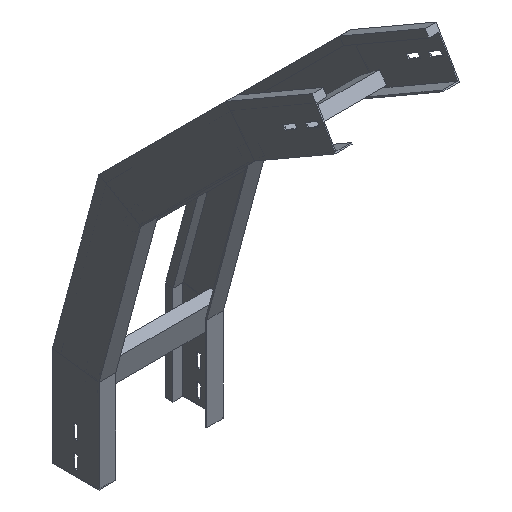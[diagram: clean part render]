
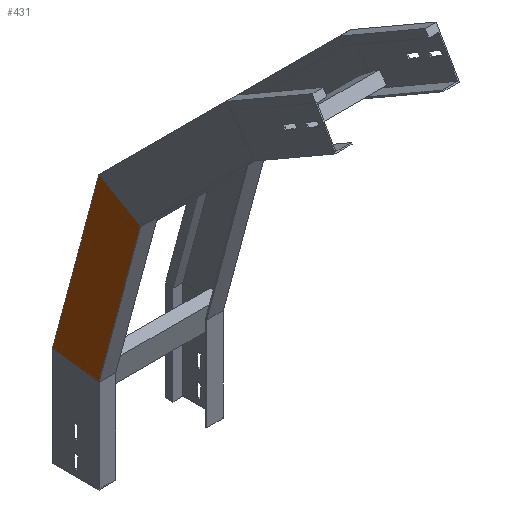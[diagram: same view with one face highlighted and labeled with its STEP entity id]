
A CAD part, isometric view. The second image highlights one B-rep face of the part: STEP entity #431.
In plain terms, the highlighted planar face has unit normal (-1, 0, 0) as drawn and (1, 0, 0) by its records, which use the part's own axes.
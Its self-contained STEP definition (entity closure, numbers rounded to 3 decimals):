
#105 = CARTESIAN_POINT ( 'NONE',  ( 0., -67.034, 400.175 ) ) ;
#125 = ORIENTED_EDGE ( 'NONE', *, *, #320, .F. ) ;
#144 = CARTESIAN_POINT ( 'NONE',  ( 0., -204.124, 643.33 ) ) ;
#160 = DIRECTION ( 'NONE',  ( 0., -0.609, -0.793 ) ) ;
#233 = CARTESIAN_POINT ( 'NONE',  ( 0., 0.209, 438.998 ) ) ;
#262 = VERTEX_POINT ( 'NONE', #1570 ) ;
#302 = CARTESIAN_POINT ( 'NONE',  ( 0., -272.519, 554.196 ) ) ;
#320 = EDGE_CURVE ( 'NONE', #646, #262, #514, .T. ) ;
#379 = LINE ( 'NONE', #1037, #890 ) ;
#405 = DIRECTION ( 'NONE',  ( 0., -0.707, 0.707 ) ) ;
#419 = VERTEX_POINT ( 'NONE', #144 ) ;
#431 = ADVANCED_FACE ( 'NONE', ( #1634 ), #1196, .T. ) ;
#434 = LINE ( 'NONE', #302, #1067 ) ;
#495 = EDGE_LOOP ( 'NONE', ( #1366, #1035, #125, #1118 ) ) ;
#514 = LINE ( 'NONE', #541, #562 ) ;
#541 = CARTESIAN_POINT ( 'NONE',  ( 0., -51.332, 384.473 ) ) ;
#562 = VECTOR ( 'NONE', #1164, 1000. ) ;
#624 = CARTESIAN_POINT ( 'NONE',  ( 0., -127.544, 365.239 ) ) ;
#646 = VERTEX_POINT ( 'NONE', #105 ) ;
#827 = CARTESIAN_POINT ( 'NONE',  ( 0., -51.332, 384.473 ) ) ;
#890 = VECTOR ( 'NONE', #405, 1000. ) ;
#908 = EDGE_CURVE ( 'NONE', #1428, #419, #379, .T. ) ;
#1032 = AXIS2_PLACEMENT_3D ( 'NONE', #827, #1351, #1491 ) ;
#1035 = ORIENTED_EDGE ( 'NONE', *, *, #1387, .T. ) ;
#1037 = CARTESIAN_POINT ( 'NONE',  ( 0., 1.701, 437.506 ) ) ;
#1067 = VECTOR ( 'NONE', #160, 1000. ) ;
#1118 = ORIENTED_EDGE ( 'NONE', *, *, #1331, .F. ) ;
#1127 = DIRECTION ( 'NONE',  ( 0., -0.866, -0.5 ) ) ;
#1164 = DIRECTION ( 'NONE',  ( 0., -0.707, 0.707 ) ) ;
#1196 = PLANE ( 'NONE',  #1032 ) ;
#1225 = VECTOR ( 'NONE', #1127, 1000. ) ;
#1259 = LINE ( 'NONE', #624, #1225 ) ;
#1331 = EDGE_CURVE ( 'NONE', #1428, #646, #1259, .T. ) ;
#1351 = DIRECTION ( 'NONE',  ( 1., 0., 0. ) ) ;
#1366 = ORIENTED_EDGE ( 'NONE', *, *, #908, .T. ) ;
#1387 = EDGE_CURVE ( 'NONE', #419, #262, #434, .T. ) ;
#1428 = VERTEX_POINT ( 'NONE', #233 ) ;
#1491 = DIRECTION ( 'NONE',  ( 0., 0., -1. ) ) ;
#1570 = CARTESIAN_POINT ( 'NONE',  ( 0., -250.175, 583.315 ) ) ;
#1634 = FACE_OUTER_BOUND ( 'NONE', #495, .T. ) ;
